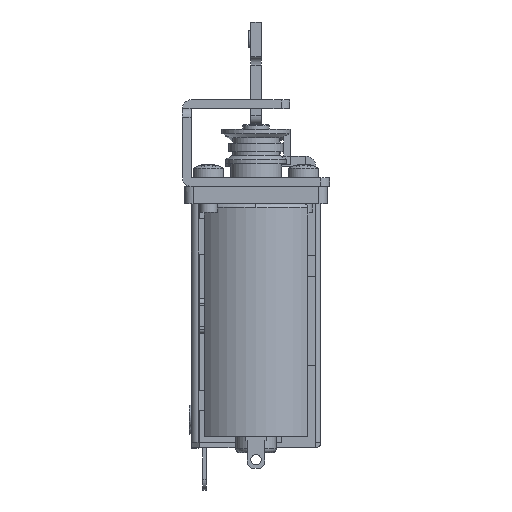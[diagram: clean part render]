
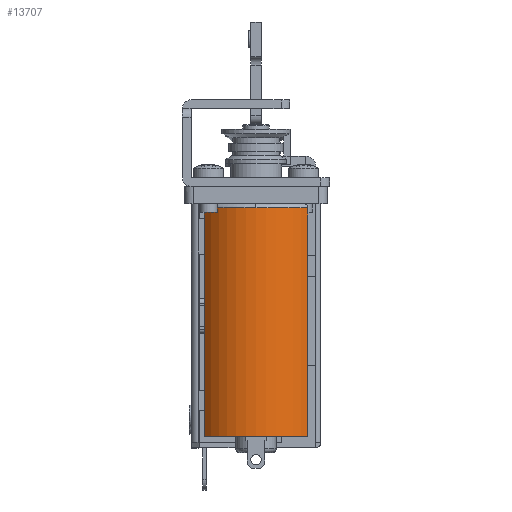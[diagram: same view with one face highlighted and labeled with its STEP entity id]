
A CAD part, left-side view. The second image highlights one B-rep face of the part: STEP entity #13707.
In plain terms, the highlighted cylindrical face has radius 7.75 mm (diameter 15.5 mm), a partial arc.
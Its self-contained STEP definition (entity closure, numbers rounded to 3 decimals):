
#10010 = VERTEX_POINT('',#10011);
#10011 = CARTESIAN_POINT('',(-84.25,0.,-12.5));
#10018 = EDGE_CURVE('',#10010,#10019,#10021,.T.);
#10019 = VERTEX_POINT('',#10020);
#10020 = CARTESIAN_POINT('',(-81.405,-6.,-12.5));
#10021 = CIRCLE('',#10022,7.75);
#10022 = AXIS2_PLACEMENT_3D('',#10023,#10024,#10025);
#10023 = CARTESIAN_POINT('',(-76.5,0.,-12.5));
#10024 = DIRECTION('',(0.,0.,1.));
#10025 = DIRECTION('',(-1.,0.,0.));
#10139 = VERTEX_POINT('',#10140);
#10140 = CARTESIAN_POINT('',(-81.405,6.,-12.5));
#10176 = EDGE_CURVE('',#10139,#10010,#10177,.T.);
#10177 = CIRCLE('',#10178,7.75);
#10178 = AXIS2_PLACEMENT_3D('',#10179,#10180,#10181);
#10179 = CARTESIAN_POINT('',(-76.5,0.,-12.5));
#10180 = DIRECTION('',(0.,0.,1.));
#10181 = DIRECTION('',(-0.633,0.774,0.));
#13707 = ADVANCED_FACE('',(#13708),#13744,.T.);
#13708 = FACE_BOUND('',#13709,.T.);
#13709 = EDGE_LOOP('',(#13710,#13721,#13730,#13736,#13737,#13738));
#13710 = ORIENTED_EDGE('',*,*,#13711,.T.);
#13711 = EDGE_CURVE('',#13712,#13714,#13716,.T.);
#13712 = VERTEX_POINT('',#13713);
#13713 = CARTESIAN_POINT('',(-81.405,6.,-38.9));
#13714 = VERTEX_POINT('',#13715);
#13715 = CARTESIAN_POINT('',(-84.25,0.,-38.9));
#13716 = CIRCLE('',#13717,7.75);
#13717 = AXIS2_PLACEMENT_3D('',#13718,#13719,#13720);
#13718 = CARTESIAN_POINT('',(-76.5,0.,-38.9));
#13719 = DIRECTION('',(0.,0.,1.));
#13720 = DIRECTION('',(-1.,0.,0.));
#13721 = ORIENTED_EDGE('',*,*,#13722,.T.);
#13722 = EDGE_CURVE('',#13714,#13723,#13725,.T.);
#13723 = VERTEX_POINT('',#13724);
#13724 = CARTESIAN_POINT('',(-81.405,-6.,-38.9));
#13725 = CIRCLE('',#13726,7.75);
#13726 = AXIS2_PLACEMENT_3D('',#13727,#13728,#13729);
#13727 = CARTESIAN_POINT('',(-76.5,0.,-38.9));
#13728 = DIRECTION('',(0.,0.,1.));
#13729 = DIRECTION('',(-1.,0.,0.));
#13730 = ORIENTED_EDGE('',*,*,#13731,.T.);
#13731 = EDGE_CURVE('',#13723,#10019,#13732,.T.);
#13732 = LINE('',#13733,#13734);
#13733 = CARTESIAN_POINT('',(-81.405,-6.,-12.));
#13734 = VECTOR('',#13735,1.);
#13735 = DIRECTION('',(0.,0.,1.));
#13736 = ORIENTED_EDGE('',*,*,#10018,.F.);
#13737 = ORIENTED_EDGE('',*,*,#10176,.F.);
#13738 = ORIENTED_EDGE('',*,*,#13739,.F.);
#13739 = EDGE_CURVE('',#13712,#10139,#13740,.T.);
#13740 = LINE('',#13741,#13742);
#13741 = CARTESIAN_POINT('',(-81.405,6.,-12.));
#13742 = VECTOR('',#13743,1.);
#13743 = DIRECTION('',(0.,0.,1.));
#13744 = CYLINDRICAL_SURFACE('',#13745,7.75);
#13745 = AXIS2_PLACEMENT_3D('',#13746,#13747,#13748);
#13746 = CARTESIAN_POINT('',(-76.5,0.,-12.));
#13747 = DIRECTION('',(0.,0.,1.));
#13748 = DIRECTION('',(-1.,0.,0.));
